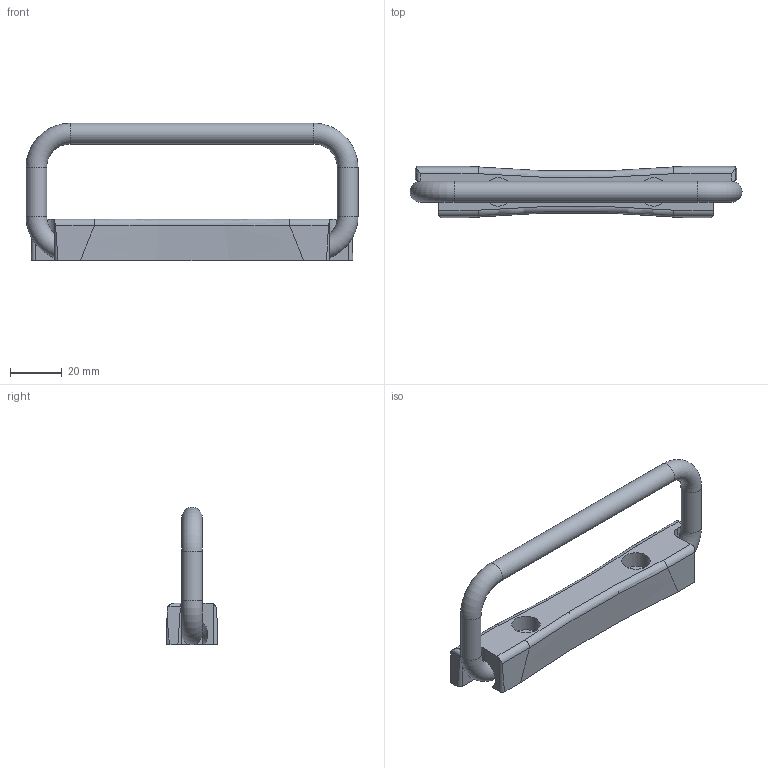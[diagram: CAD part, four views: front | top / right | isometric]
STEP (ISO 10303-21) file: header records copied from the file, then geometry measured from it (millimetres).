
FILE_DESCRIPTION( ( 'STEP AP203' ), '1' );
FILE_NAME( 'C:/Temp/Ganter_Step_05_03_2020/data/1_2/gn425_9/Stainless Steel-Folding handle GN 425.9-120-NI-B-1-SW (activated).stp', '2020-03-05T10:14:51', ( 'License CC BY-ND 4.0' ), ( 'CADENAS' ), ' ', 'PARTsolutions', ' ' );
FILE_SCHEMA( ( 'CONFIG_CONTROL_DESIGN' ) );
Length unit declared in the file: millimetre
Products named in the file (3): Stainless Steel-Folding handle GN 425.9-120-NI-B-1-SW (activated); _Edelstahl-Klappgriff GN 425.9-120-NI-B-1-SW (ausgeklappt)-1; _Edelstahl-Klappgriff GN 425.9-120-NI-B-1-SW (betaetigt)-2
Assembly tree (2 placements, depth 2):
  Stainless Steel-Folding handle GN 425.9-120-NI-B-1-SW (activated)
    _Edelstahl-Klappgriff GN 425.9-120-NI-B-1-SW (ausgeklappt)-1
    _Edelstahl-Klappgriff GN 425.9-120-NI-B-1-SW (betaetigt)-2
Bounding box: 128 x 20 x 53 mm (x, y, z)
Volume: 38762.3 mm3; surface area: 15502.3 mm2
Topology: 2 solids, 2 shells, 67 faces, 174 edges, 113 vertices
Faces by surface type: plane 30, cylinder 27, torus 10
Full cylindrical faces by diameter (mm): 6.4 x2, 8 x5, 11 x2
Entity records: 2353 total; most frequent: CARTESIAN_POINT 653, DIRECTION 332, ORIENTED_EDGE 320, EDGE_CURVE 160, AXIS2_PLACEMENT_3D 130, VERTEX_POINT 112, EDGE_LOOP 86, FACE_OUTER_BOUND 80
